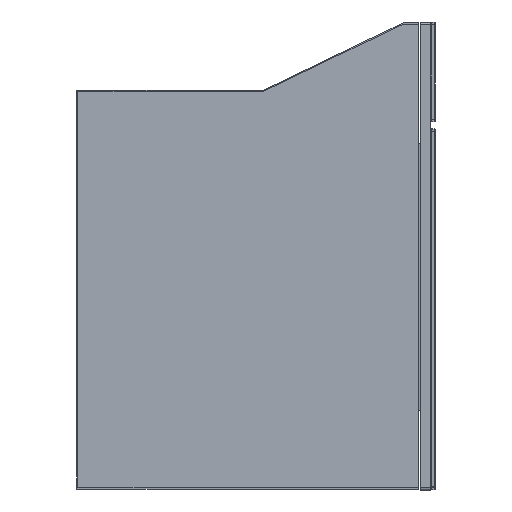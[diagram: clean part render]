
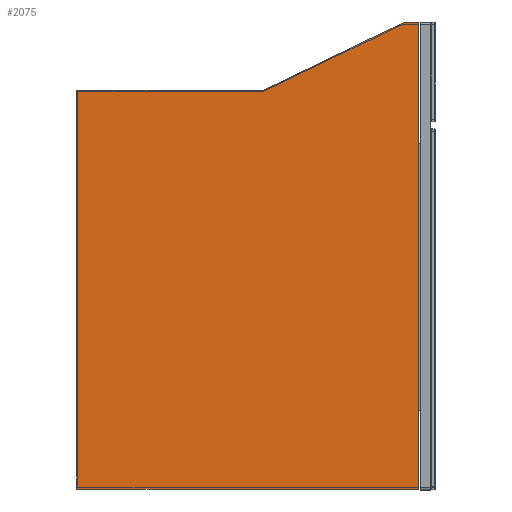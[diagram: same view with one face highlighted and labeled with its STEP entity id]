
A CAD part, left-side view. The second image highlights one B-rep face of the part: STEP entity #2075.
In plain terms, the highlighted planar face has unit normal (-1, 0, 0).
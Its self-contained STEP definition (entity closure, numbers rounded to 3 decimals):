
#217 = EDGE_LOOP ( 'NONE', ( #4331, #4346, #4350, #4348, #4341, #4345 ) ) ;
#410 = EDGE_CURVE ( 'NONE', #2330, #4475, #8288, .T. ) ;
#415 = EDGE_CURVE ( 'NONE', #4463, #4484, #8300, .T. ) ;
#416 = EDGE_CURVE ( 'NONE', #4484, #2330, #8296, .T. ) ;
#417 = EDGE_CURVE ( 'NONE', #2413, #4454, #8304, .T. ) ;
#420 = EDGE_CURVE ( 'NONE', #4463, #4454, #8310, .T. ) ;
#432 = EDGE_CURVE ( 'NONE', #4475, #2413, #8333, .T. ) ;
#450 = DIRECTION ( 'NONE',  ( 0., -1., 0. ) ) ;
#1283 = AXIS2_PLACEMENT_3D ( 'NONE', #11983, #11988, #11989 ) ;
#2033 = DIRECTION ( 'NONE',  ( 0., 0., 1. ) ) ;
#2034 = CARTESIAN_POINT ( 'NONE',  ( 22.5, 452.5, -10. ) ) ;
#2038 = CARTESIAN_POINT ( 'NONE',  ( 22.5, 2.5, -340. ) ) ;
#2040 = DIRECTION ( 'NONE',  ( 0., 1., 0. ) ) ;
#2041 = DIRECTION ( 'NONE',  ( 0., 0., 1. ) ) ;
#2075 = ADVANCED_FACE ( 'NONE', ( #9004 ), #11985, .F. ) ;
#2330 = VERTEX_POINT ( 'NONE', #7849 ) ;
#2413 = VERTEX_POINT ( 'NONE', #7913 ) ;
#4331 = ORIENTED_EDGE ( 'NONE', *, *, #416, .F. ) ;
#4341 = ORIENTED_EDGE ( 'NONE', *, *, #432, .F. ) ;
#4345 = ORIENTED_EDGE ( 'NONE', *, *, #410, .F. ) ;
#4346 = ORIENTED_EDGE ( 'NONE', *, *, #415, .F. ) ;
#4348 = ORIENTED_EDGE ( 'NONE', *, *, #417, .F. ) ;
#4350 = ORIENTED_EDGE ( 'NONE', *, *, #420, .T. ) ;
#4454 = VERTEX_POINT ( 'NONE', #9132 ) ;
#4463 = VERTEX_POINT ( 'NONE', #9141 ) ;
#4475 = VERTEX_POINT ( 'NONE', #9153 ) ;
#4484 = VERTEX_POINT ( 'NONE', #9162 ) ;
#6362 = CARTESIAN_POINT ( 'NONE',  ( 22.5, 452.5, -340. ) ) ;
#6363 = DIRECTION ( 'NONE',  ( 0., 0., 1. ) ) ;
#6465 = CARTESIAN_POINT ( 'NONE',  ( 22.5, 2.5, -340. ) ) ;
#7849 = CARTESIAN_POINT ( 'NONE',  ( 22.5, 387.5, -160. ) ) ;
#7913 = CARTESIAN_POINT ( 'NONE',  ( 22.5, 452.5, -10. ) ) ;
#8288 = LINE ( 'NONE', #13281, #8293 ) ;
#8293 = VECTOR ( 'NONE', #9089, 1000. ) ;
#8296 = LINE ( 'NONE', #13284, #8305 ) ;
#8300 = LINE ( 'NONE', #2038, #8303 ) ;
#8303 = VECTOR ( 'NONE', #2040, 1000. ) ;
#8304 = LINE ( 'NONE', #2034, #8307 ) ;
#8305 = VECTOR ( 'NONE', #2033, 1000. ) ;
#8307 = VECTOR ( 'NONE', #450, 1000. ) ;
#8310 = LINE ( 'NONE', #6465, #8313 ) ;
#8313 = VECTOR ( 'NONE', #2041, 1000. ) ;
#8333 = LINE ( 'NONE', #6362, #8336 ) ;
#8336 = VECTOR ( 'NONE', #6363, 1000. ) ;
#9004 = FACE_OUTER_BOUND ( 'NONE', #217, .T. ) ;
#9089 = DIRECTION ( 'NONE',  ( 0., 0.434, 0.901 ) ) ;
#9132 = CARTESIAN_POINT ( 'NONE',  ( 22.5, 2.5, -10. ) ) ;
#9141 = CARTESIAN_POINT ( 'NONE',  ( 22.5, 2.5, -340. ) ) ;
#9153 = CARTESIAN_POINT ( 'NONE',  ( 22.5, 452.5, -25. ) ) ;
#9162 = CARTESIAN_POINT ( 'NONE',  ( 22.5, 387.5, -340. ) ) ;
#11983 = CARTESIAN_POINT ( 'NONE',  ( 22.5, 452.5, -340. ) ) ;
#11985 = PLANE ( 'NONE',  #1283 ) ;
#11988 = DIRECTION ( 'NONE',  ( 1., 0., 0. ) ) ;
#11989 = DIRECTION ( 'NONE',  ( 0., 0., -1. ) ) ;
#13281 = CARTESIAN_POINT ( 'NONE',  ( 22.5, 387.5, -160. ) ) ;
#13284 = CARTESIAN_POINT ( 'NONE',  ( 22.5, 387.5, -160. ) ) ;
